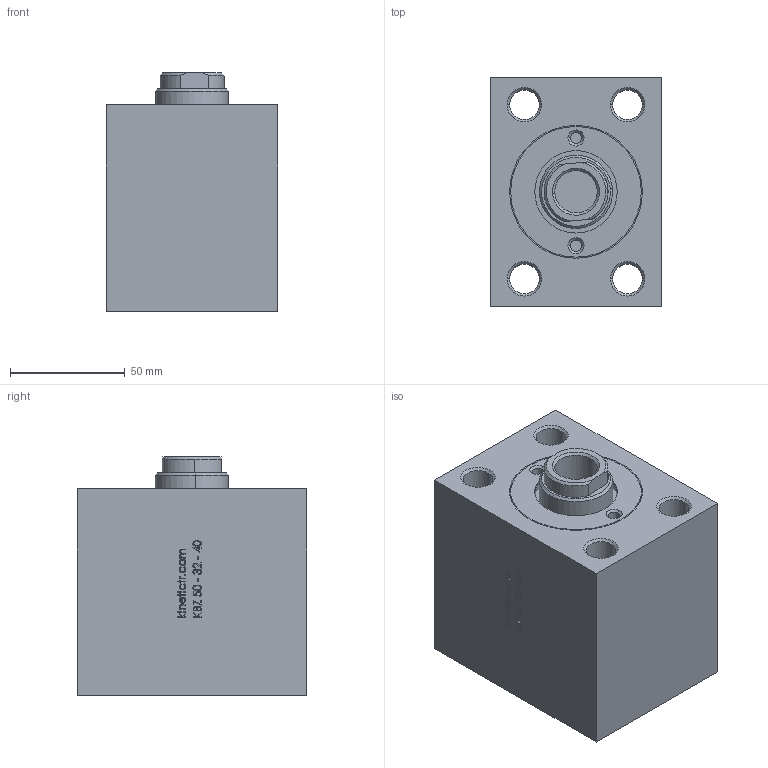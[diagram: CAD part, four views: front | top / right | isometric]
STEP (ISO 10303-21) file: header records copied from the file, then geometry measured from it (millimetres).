
FILE_DESCRIPTION (( 'STEP AP214' ), '1' );
FILE_NAME ('KBZ_02_50_32_25.STEP', '2018-12-29T15:47:09', ( '' ), ( '' ), 'SwSTEP 2.0', 'SolidWorks 2018', '' );
FILE_SCHEMA (( 'AUTOMOTIVE_DESIGN' ));
Length unit declared in the file: millimetre
Products named in the file (5): KBZ_50-32_ON_KAPAK; KBZ_50_PÝSTON; KBZ_02_50_32_25; 32_M尳; 50-32-40-GOVDE
Assembly tree (4 placements, depth 2):
  KBZ_02_50_32_25
    50-32-40-GOVDE
    32_M尳
    KBZ_50_PÝSTON
    KBZ_50-32_ON_KAPAK
Bounding box: 75 x 100 x 104 mm (x, y, z)
Volume: 571983.6 mm3; surface area: 107885.1 mm2
Topology: 4 solids, 4 shells, 481 faces, 1177 edges, 760 vertices
Faces by surface type: plane 211, bspline 124, cone 73, cylinder 73
Entity records: 21105 total; most frequent: CARTESIAN_POINT 10069, ORIENTED_EDGE 2354, DIRECTION 1864, EDGE_CURVE 1177, VERTEX_POINT 760, LINE 706, VECTOR 706, AXIS2_PLACEMENT_3D 579
